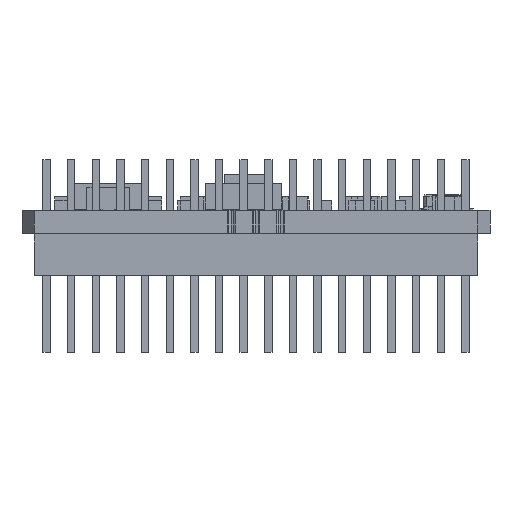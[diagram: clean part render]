
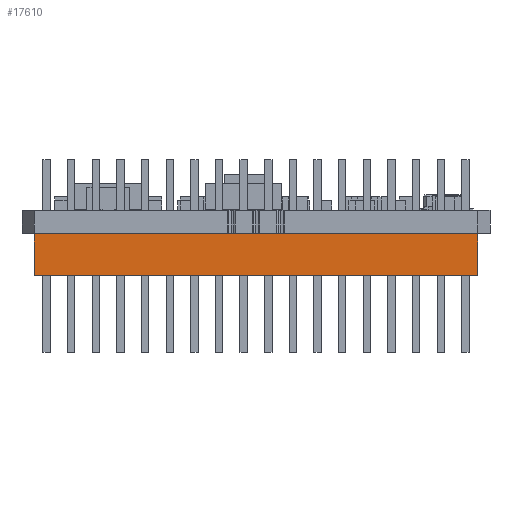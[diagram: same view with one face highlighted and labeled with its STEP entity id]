
A CAD part, front view. The second image highlights one B-rep face of the part: STEP entity #17610.
In plain terms, the highlighted planar face has unit normal (0, -1, 0).
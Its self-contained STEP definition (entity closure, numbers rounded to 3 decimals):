
#17441 = PLANE('',#17442);
#17442 = AXIS2_PLACEMENT_3D('',#17443,#17444,#17445);
#17443 = CARTESIAN_POINT('',(-9.,-0.625,0.));
#17444 = DIRECTION('',(-1.,0.,0.));
#17445 = DIRECTION('',(0.,1.,0.));
#17469 = PLANE('',#17470);
#17470 = AXIS2_PLACEMENT_3D('',#17471,#17472,#17473);
#17471 = CARTESIAN_POINT('',(-9.,0.625,1.7));
#17472 = DIRECTION('',(0.,0.,1.));
#17473 = DIRECTION('',(1.,0.,0.));
#17497 = PLANE('',#17498);
#17498 = AXIS2_PLACEMENT_3D('',#17499,#17500,#17501);
#17499 = CARTESIAN_POINT('',(9.,0.625,0.));
#17500 = DIRECTION('',(1.,0.,0.));
#17501 = DIRECTION('',(0.,-1.,0.));
#17523 = PLANE('',#17524);
#17524 = AXIS2_PLACEMENT_3D('',#17525,#17526,#17527);
#17525 = CARTESIAN_POINT('',(-9.,0.625,0.));
#17526 = DIRECTION('',(0.,0.,1.));
#17527 = DIRECTION('',(1.,0.,0.));
#17540 = VERTEX_POINT('',#17541);
#17541 = CARTESIAN_POINT('',(9.,-0.625,1.7));
#17562 = EDGE_CURVE('',#17563,#17540,#17565,.T.);
#17563 = VERTEX_POINT('',#17564);
#17564 = CARTESIAN_POINT('',(9.,-0.625,0.));
#17565 = SURFACE_CURVE('',#17566,(#17570,#17577),.PCURVE_S1.);
#17566 = LINE('',#17567,#17568);
#17567 = CARTESIAN_POINT('',(9.,-0.625,0.));
#17568 = VECTOR('',#17569,1.);
#17569 = DIRECTION('',(0.,0.,1.));
#17570 = PCURVE('',#17497,#17571);
#17571 = DEFINITIONAL_REPRESENTATION('',(#17572),#17576);
#17572 = LINE('',#17573,#17574);
#17573 = CARTESIAN_POINT('',(1.25,0.));
#17574 = VECTOR('',#17575,1.);
#17575 = DIRECTION('',(0.,-1.));
#17576 = ( GEOMETRIC_REPRESENTATION_CONTEXT(2) 
PARAMETRIC_REPRESENTATION_CONTEXT() REPRESENTATION_CONTEXT('2D SPACE',''
  ) );
#17577 = PCURVE('',#17578,#17583);
#17578 = PLANE('',#17579);
#17579 = AXIS2_PLACEMENT_3D('',#17580,#17581,#17582);
#17580 = CARTESIAN_POINT('',(9.,-0.625,0.));
#17581 = DIRECTION('',(0.,-1.,0.));
#17582 = DIRECTION('',(-1.,0.,0.));
#17583 = DEFINITIONAL_REPRESENTATION('',(#17584),#17588);
#17584 = LINE('',#17585,#17586);
#17585 = CARTESIAN_POINT('',(0.,0.));
#17586 = VECTOR('',#17587,1.);
#17587 = DIRECTION('',(0.,-1.));
#17588 = ( GEOMETRIC_REPRESENTATION_CONTEXT(2) 
PARAMETRIC_REPRESENTATION_CONTEXT() REPRESENTATION_CONTEXT('2D SPACE',''
  ) );
#17610 = ADVANCED_FACE('',(#17611),#17578,.T.);
#17611 = FACE_BOUND('',#17612,.T.);
#17612 = EDGE_LOOP('',(#17613,#17614,#17637,#17660));
#17613 = ORIENTED_EDGE('',*,*,#17562,.T.);
#17614 = ORIENTED_EDGE('',*,*,#17615,.T.);
#17615 = EDGE_CURVE('',#17540,#17616,#17618,.T.);
#17616 = VERTEX_POINT('',#17617);
#17617 = CARTESIAN_POINT('',(-9.,-0.625,1.7));
#17618 = SURFACE_CURVE('',#17619,(#17623,#17630),.PCURVE_S1.);
#17619 = LINE('',#17620,#17621);
#17620 = CARTESIAN_POINT('',(9.,-0.625,1.7));
#17621 = VECTOR('',#17622,1.);
#17622 = DIRECTION('',(-1.,0.,0.));
#17623 = PCURVE('',#17578,#17624);
#17624 = DEFINITIONAL_REPRESENTATION('',(#17625),#17629);
#17625 = LINE('',#17626,#17627);
#17626 = CARTESIAN_POINT('',(0.,-1.7));
#17627 = VECTOR('',#17628,1.);
#17628 = DIRECTION('',(1.,0.));
#17629 = ( GEOMETRIC_REPRESENTATION_CONTEXT(2) 
PARAMETRIC_REPRESENTATION_CONTEXT() REPRESENTATION_CONTEXT('2D SPACE',''
  ) );
#17630 = PCURVE('',#17469,#17631);
#17631 = DEFINITIONAL_REPRESENTATION('',(#17632),#17636);
#17632 = LINE('',#17633,#17634);
#17633 = CARTESIAN_POINT('',(18.,-1.25));
#17634 = VECTOR('',#17635,1.);
#17635 = DIRECTION('',(-1.,0.));
#17636 = ( GEOMETRIC_REPRESENTATION_CONTEXT(2) 
PARAMETRIC_REPRESENTATION_CONTEXT() REPRESENTATION_CONTEXT('2D SPACE',''
  ) );
#17637 = ORIENTED_EDGE('',*,*,#17638,.F.);
#17638 = EDGE_CURVE('',#17639,#17616,#17641,.T.);
#17639 = VERTEX_POINT('',#17640);
#17640 = CARTESIAN_POINT('',(-9.,-0.625,0.));
#17641 = SURFACE_CURVE('',#17642,(#17646,#17653),.PCURVE_S1.);
#17642 = LINE('',#17643,#17644);
#17643 = CARTESIAN_POINT('',(-9.,-0.625,0.));
#17644 = VECTOR('',#17645,1.);
#17645 = DIRECTION('',(0.,0.,1.));
#17646 = PCURVE('',#17578,#17647);
#17647 = DEFINITIONAL_REPRESENTATION('',(#17648),#17652);
#17648 = LINE('',#17649,#17650);
#17649 = CARTESIAN_POINT('',(18.,0.));
#17650 = VECTOR('',#17651,1.);
#17651 = DIRECTION('',(0.,-1.));
#17652 = ( GEOMETRIC_REPRESENTATION_CONTEXT(2) 
PARAMETRIC_REPRESENTATION_CONTEXT() REPRESENTATION_CONTEXT('2D SPACE',''
  ) );
#17653 = PCURVE('',#17441,#17654);
#17654 = DEFINITIONAL_REPRESENTATION('',(#17655),#17659);
#17655 = LINE('',#17656,#17657);
#17656 = CARTESIAN_POINT('',(0.,0.));
#17657 = VECTOR('',#17658,1.);
#17658 = DIRECTION('',(0.,-1.));
#17659 = ( GEOMETRIC_REPRESENTATION_CONTEXT(2) 
PARAMETRIC_REPRESENTATION_CONTEXT() REPRESENTATION_CONTEXT('2D SPACE',''
  ) );
#17660 = ORIENTED_EDGE('',*,*,#17661,.F.);
#17661 = EDGE_CURVE('',#17563,#17639,#17662,.T.);
#17662 = SURFACE_CURVE('',#17663,(#17667,#17674),.PCURVE_S1.);
#17663 = LINE('',#17664,#17665);
#17664 = CARTESIAN_POINT('',(9.,-0.625,0.));
#17665 = VECTOR('',#17666,1.);
#17666 = DIRECTION('',(-1.,0.,0.));
#17667 = PCURVE('',#17578,#17668);
#17668 = DEFINITIONAL_REPRESENTATION('',(#17669),#17673);
#17669 = LINE('',#17670,#17671);
#17670 = CARTESIAN_POINT('',(0.,0.));
#17671 = VECTOR('',#17672,1.);
#17672 = DIRECTION('',(1.,0.));
#17673 = ( GEOMETRIC_REPRESENTATION_CONTEXT(2) 
PARAMETRIC_REPRESENTATION_CONTEXT() REPRESENTATION_CONTEXT('2D SPACE',''
  ) );
#17674 = PCURVE('',#17523,#17675);
#17675 = DEFINITIONAL_REPRESENTATION('',(#17676),#17680);
#17676 = LINE('',#17677,#17678);
#17677 = CARTESIAN_POINT('',(18.,-1.25));
#17678 = VECTOR('',#17679,1.);
#17679 = DIRECTION('',(-1.,0.));
#17680 = ( GEOMETRIC_REPRESENTATION_CONTEXT(2) 
PARAMETRIC_REPRESENTATION_CONTEXT() REPRESENTATION_CONTEXT('2D SPACE',''
  ) );
